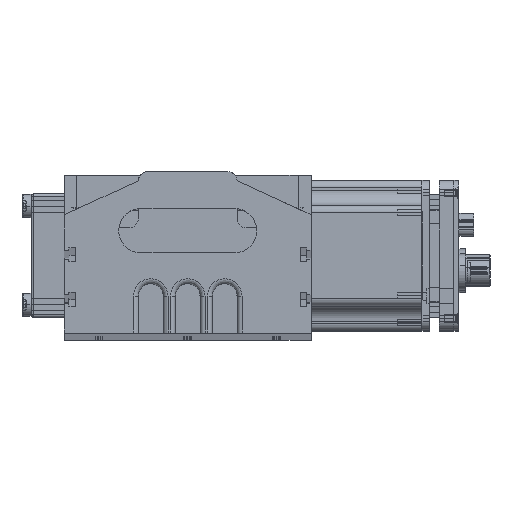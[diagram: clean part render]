
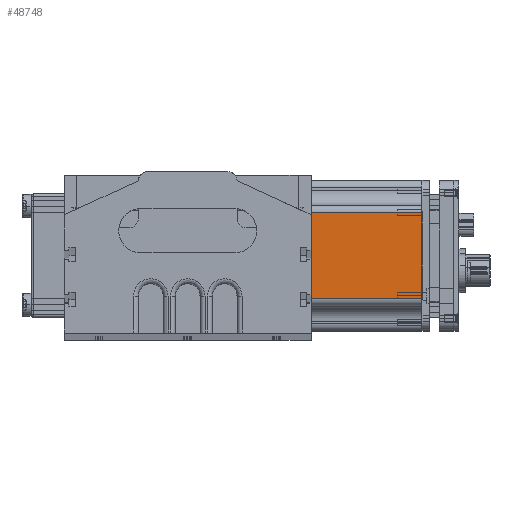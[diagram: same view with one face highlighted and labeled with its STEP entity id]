
A CAD part, top view. The second image highlights one B-rep face of the part: STEP entity #48748.
In plain terms, the highlighted planar face has unit normal (0, 0, 1).
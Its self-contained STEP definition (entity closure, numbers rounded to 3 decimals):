
#35367 = CARTESIAN_POINT ( 'NONE',  ( -24.5, 7., 30.5 ) ) ;
#35368 = LINE ( 'NONE', #35367, #35916 ) ;
#35916 = VECTOR ( 'NONE', #35920, 1000. ) ;
#35920 = DIRECTION ( 'NONE',  ( 1., 0., 0. ) ) ;
#36168 = CARTESIAN_POINT ( 'NONE',  ( -24.5, 7., 30.5 ) ) ;
#36184 = CARTESIAN_POINT ( 'NONE',  ( -17.5, 7., 30.5 ) ) ;
#38203 = DIRECTION ( 'NONE',  ( 0., 1., 0. ) ) ;
#38204 = VECTOR ( 'NONE', #38203, 1000. ) ;
#38205 = CARTESIAN_POINT ( 'NONE',  ( -17.5, 7., 30.5 ) ) ;
#38206 = LINE ( 'NONE', #38205, #38204 ) ;
#38278 = LINE ( 'NONE', #38335, #38331 ) ;
#38284 = LINE ( 'NONE', #38338, #38337 ) ;
#38287 = CARTESIAN_POINT ( 'NONE',  ( -17.5, 94., 30.5 ) ) ;
#38305 = CARTESIAN_POINT ( 'NONE',  ( 17.5, 94., 30.5 ) ) ;
#38315 = CARTESIAN_POINT ( 'NONE',  ( 24.5, 0., 30.5 ) ) ;
#38330 = DIRECTION ( 'NONE',  ( 1., 0., 0. ) ) ;
#38331 = VECTOR ( 'NONE', #38330, 1000. ) ;
#38335 = CARTESIAN_POINT ( 'NONE',  ( -24.5, 7., 30.5 ) ) ;
#38336 = DIRECTION ( 'NONE',  ( 0., -1., 0. ) ) ;
#38337 = VECTOR ( 'NONE', #38336, 1000. ) ;
#38338 = CARTESIAN_POINT ( 'NONE',  ( 17.5, 95.35, 30.5 ) ) ;
#38340 = VECTOR ( 'NONE', #38344, 1000. ) ;
#38342 = DIRECTION ( 'NONE',  ( -1., 0., 0. ) ) ;
#38343 = DIRECTION ( 'NONE',  ( 0., 0., -1. ) ) ;
#38344 = DIRECTION ( 'NONE',  ( 1., 0., 0. ) ) ;
#38345 = CARTESIAN_POINT ( 'NONE',  ( -24.5, 0., 30.5 ) ) ;
#38348 = PLANE ( 'NONE',  #38357 ) ;
#38356 = LINE ( 'NONE', #38345, #38340 ) ;
#38357 = AXIS2_PLACEMENT_3D ( 'NONE', #38372, #38343, #38342 ) ;
#38358 = FACE_OUTER_BOUND ( 'NONE', #48629, .T. ) ;
#38360 = CARTESIAN_POINT ( 'NONE',  ( 17.5, 7., 30.5 ) ) ;
#38365 = CARTESIAN_POINT ( 'NONE',  ( 24.5, 7., 30.5 ) ) ;
#38368 = DIRECTION ( 'NONE',  ( 0., -1., 0. ) ) ;
#38369 = VECTOR ( 'NONE', #38368, 1000. ) ;
#38370 = CARTESIAN_POINT ( 'NONE',  ( 24.5, 7., 30.5 ) ) ;
#38371 = LINE ( 'NONE', #38370, #38369 ) ;
#38372 = CARTESIAN_POINT ( 'NONE',  ( -24.5, 7., 30.5 ) ) ;
#38489 = VECTOR ( 'NONE', #38497, 1000. ) ;
#38497 = DIRECTION ( 'NONE',  ( 1., 0., 0. ) ) ;
#38542 = CARTESIAN_POINT ( 'NONE',  ( 26.5, 94., 30.5 ) ) ;
#38543 = LINE ( 'NONE', #38542, #38489 ) ;
#40785 = CARTESIAN_POINT ( 'NONE',  ( -24.5, 0., 30.5 ) ) ;
#40857 = DIRECTION ( 'NONE',  ( 0., 1., 0. ) ) ;
#40858 = VECTOR ( 'NONE', #40857, 1000. ) ;
#40859 = CARTESIAN_POINT ( 'NONE',  ( -24.5, 7., 30.5 ) ) ;
#40860 = LINE ( 'NONE', #40859, #40858 ) ;
#47582 = VERTEX_POINT ( 'NONE', #36184 ) ;
#47585 = VERTEX_POINT ( 'NONE', #36168 ) ;
#47586 = EDGE_CURVE ( 'NONE', #47585, #47582, #35368, .T. ) ;
#48629 = EDGE_LOOP ( 'NONE', ( #48751, #48712, #48754, #48635, #48732, #48716, #48646, #48746 ) ) ;
#48635 = ORIENTED_EDGE ( 'NONE', *, *, #48757, .T. ) ;
#48636 = EDGE_CURVE ( 'NONE', #47582, #48733, #38206, .T. ) ;
#48646 = ORIENTED_EDGE ( 'NONE', *, *, #48727, .F. ) ;
#48702 = VERTEX_POINT ( 'NONE', #38305 ) ;
#48712 = ORIENTED_EDGE ( 'NONE', *, *, #47586, .F. ) ;
#48716 = ORIENTED_EDGE ( 'NONE', *, *, #48729, .F. ) ;
#48727 = EDGE_CURVE ( 'NONE', #48702, #48753, #38284, .T. ) ;
#48729 = EDGE_CURVE ( 'NONE', #48753, #48744, #38278, .T. ) ;
#48732 = ORIENTED_EDGE ( 'NONE', *, *, #48741, .F. ) ;
#48733 = VERTEX_POINT ( 'NONE', #38287 ) ;
#48736 = VERTEX_POINT ( 'NONE', #38315 ) ;
#48741 = EDGE_CURVE ( 'NONE', #48744, #48736, #38371, .T. ) ;
#48744 = VERTEX_POINT ( 'NONE', #38365 ) ;
#48746 = ORIENTED_EDGE ( 'NONE', *, *, #48830, .F. ) ;
#48748 = ADVANCED_FACE ( 'NONE', ( #38358 ), #38348, .F. ) ;
#48751 = ORIENTED_EDGE ( 'NONE', *, *, #48636, .F. ) ;
#48753 = VERTEX_POINT ( 'NONE', #38360 ) ;
#48754 = ORIENTED_EDGE ( 'NONE', *, *, #49923, .F. ) ;
#48757 = EDGE_CURVE ( 'NONE', #49905, #48736, #38356, .T. ) ;
#48830 = EDGE_CURVE ( 'NONE', #48733, #48702, #38543, .T. ) ;
#49905 = VERTEX_POINT ( 'NONE', #40785 ) ;
#49923 = EDGE_CURVE ( 'NONE', #49905, #47585, #40860, .T. ) ;
